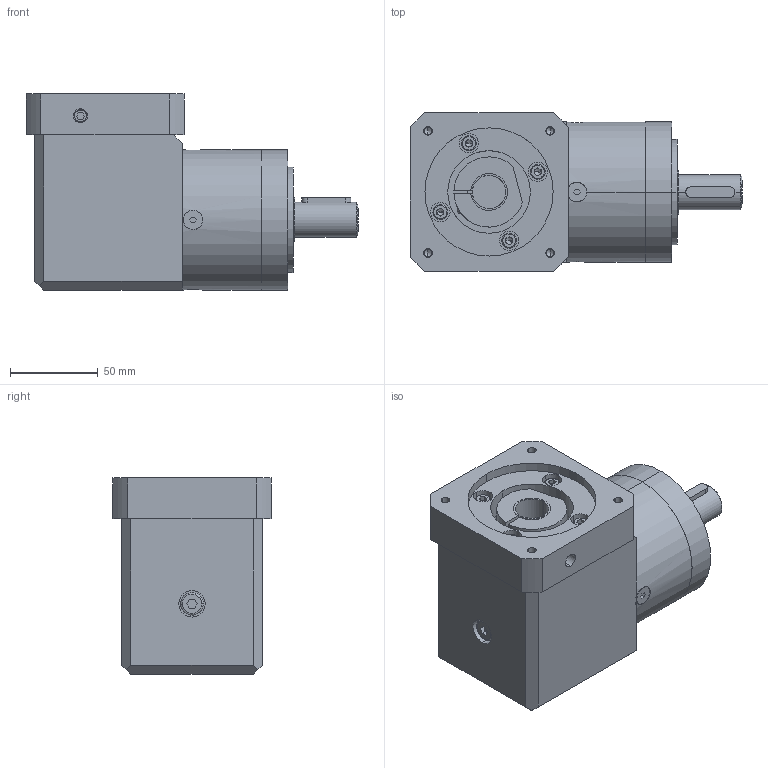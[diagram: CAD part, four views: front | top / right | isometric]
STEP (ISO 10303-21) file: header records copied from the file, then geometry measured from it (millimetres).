
FILE_DESCRIPTION (( 'STEP AP214' ), '1' );
FILE_NAME ('GBPNR-0801-CS-XXX-AA341-500.STEP', '2015-05-11T18:41:55', ( '' ), ( '' ), 'SwSTEP 2.0', 'SolidWorks 2015', '' );
FILE_SCHEMA (( 'AUTOMOTIVE_DESIGN' ));
Length unit declared in the file: inch
Products named in the file (4): socket head cap screw_am_B18.3.1M - 5 x 0.8 x 16 Hex SHCS -- 16SHX; AA341-500 adaptor plate for GBPN-080X series; PLE80, 1 stage, mb_3002; GBPNR-0801-CS-XXX-AA341-500
Assembly tree (6 placements, depth 2):
  GBPNR-0801-CS-XXX-AA341-500
    PLE80, 1 stage, mb_3002
    AA341-500 adaptor plate for GBPN-080X series
    socket head cap screw_am_B18.3.1M - 5 x 0.8 x 16 Hex SHCS -- 16SHX  x4
Bounding box: 189 x 90 x 111.7 mm (x, y, z)
Volume: 118485.8 mm3; surface area: 99867.2 mm2
Topology: 5 solids, 15 shells, 822 faces, 2067 edges, 1292 vertices
Faces by surface type: cone 342, cylinder 295, plane 171, torus 8, bspline 6
Entity records: 14178 total; most frequent: CARTESIAN_POINT 2790, DIRECTION 2220, ORIENTED_EDGE 1902, EDGE_CURVE 969, AXIS2_PLACEMENT_3D 873, VERTEX_POINT 623, VECTOR 474, LINE 474
